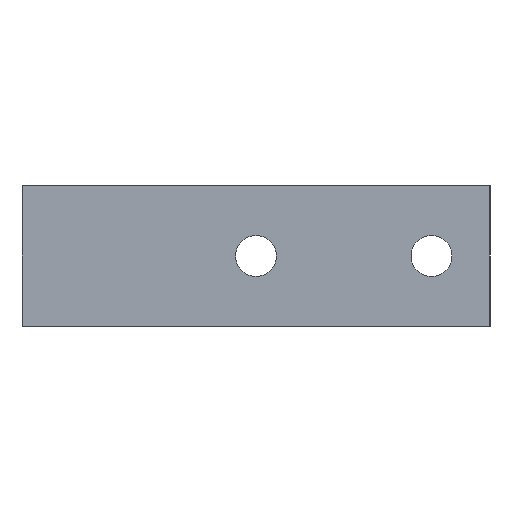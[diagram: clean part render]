
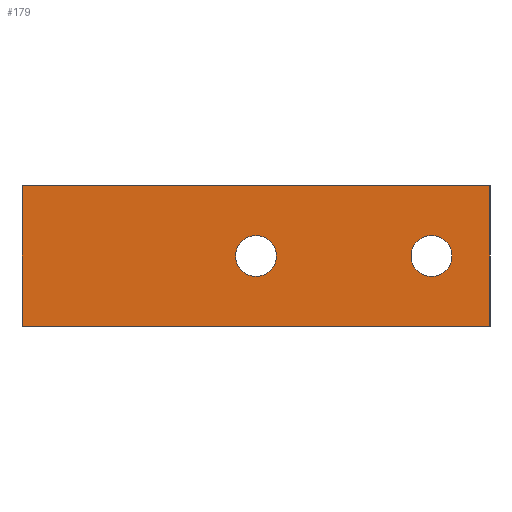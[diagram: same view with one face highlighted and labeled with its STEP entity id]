
A CAD part, left-side view. The second image highlights one B-rep face of the part: STEP entity #179.
In plain terms, the highlighted planar face has unit normal (-1, 0, 0).
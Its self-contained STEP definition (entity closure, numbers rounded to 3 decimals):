
#179=ADVANCED_FACE('',(#537,#539,#541),#543,.T.);
#537=FACE_BOUND('',#538,.T.);
#538=EDGE_LOOP('',(#805,#806,#807,#808));
#539=FACE_BOUND('',#540,.T.);
#540=EDGE_LOOP('',(#809));
#541=FACE_BOUND('',#542,.T.);
#542=EDGE_LOOP('',(#810));
#543=PLANE('',#544);
#544=AXIS2_PLACEMENT_3D('',#545,#546,#547);
#545=CARTESIAN_POINT('',(-278.,0.,0.));
#546=DIRECTION('',(-1.,0.,0.));
#547=DIRECTION('',(0.,-1.,0.));
#805=ORIENTED_EDGE('',*,*,#890,.T.);
#806=ORIENTED_EDGE('',*,*,#927,.T.);
#807=ORIENTED_EDGE('',*,*,#928,.F.);
#808=ORIENTED_EDGE('',*,*,#929,.F.);
#809=ORIENTED_EDGE('',*,*,#882,.T.);
#810=ORIENTED_EDGE('',*,*,#930,.T.);
#882=EDGE_CURVE('',#955,#955,#956,.F.);
#890=EDGE_CURVE('',#972,#970,#973,.T.);
#927=EDGE_CURVE('',#970,#1040,#1041,.T.);
#928=EDGE_CURVE('',#1042,#1040,#1043,.T.);
#929=EDGE_CURVE('',#972,#1042,#1044,.T.);
#930=EDGE_CURVE('',#1045,#1045,#1046,.F.);
#955=VERTEX_POINT('',#1182);
#956=CIRCLE('',#1183,3.5);
#970=VERTEX_POINT('',#1304);
#972=VERTEX_POINT('',#1308);
#973=LINE('',#1309,#1310);
#1040=VERTEX_POINT('',#1473);
#1041=LINE('',#1474,#1475);
#1042=VERTEX_POINT('',#1477);
#1043=LINE('',#1478,#1479);
#1044=LINE('',#1481,#1482);
#1045=VERTEX_POINT('',#1484);
#1046=CIRCLE('',#1485,3.5);
#1182=CARTESIAN_POINT('',(-278.,-73.5,12.));
#1183=AXIS2_PLACEMENT_3D('',#1184,#1185,#1186);
#1184=CARTESIAN_POINT('',(-278.,-70.,12.));
#1185=DIRECTION('',(-1.,0.,0.));
#1186=DIRECTION('',(0.,-1.,0.));
#1304=CARTESIAN_POINT('',(-278.,-80.,0.));
#1308=CARTESIAN_POINT('',(-278.,0.,0.));
#1309=CARTESIAN_POINT('',(-278.,0.,0.));
#1310=VECTOR('',#1311,1.);
#1311=DIRECTION('',(0.,-1.,0.));
#1473=CARTESIAN_POINT('',(-278.,-80.,24.));
#1474=CARTESIAN_POINT('',(-278.,-80.,0.));
#1475=VECTOR('',#1476,1.);
#1476=DIRECTION('',(0.,0.,1.));
#1477=CARTESIAN_POINT('',(-278.,0.,24.));
#1478=CARTESIAN_POINT('',(-278.,0.,24.));
#1479=VECTOR('',#1480,1.);
#1480=DIRECTION('',(0.,-1.,0.));
#1481=CARTESIAN_POINT('',(-278.,0.,0.));
#1482=VECTOR('',#1483,1.);
#1483=DIRECTION('',(0.,0.,1.));
#1484=CARTESIAN_POINT('',(-278.,-43.5,12.));
#1485=AXIS2_PLACEMENT_3D('',#1486,#1487,#1488);
#1486=CARTESIAN_POINT('',(-278.,-40.,12.));
#1487=DIRECTION('',(-1.,0.,0.));
#1488=DIRECTION('',(0.,-1.,0.));
